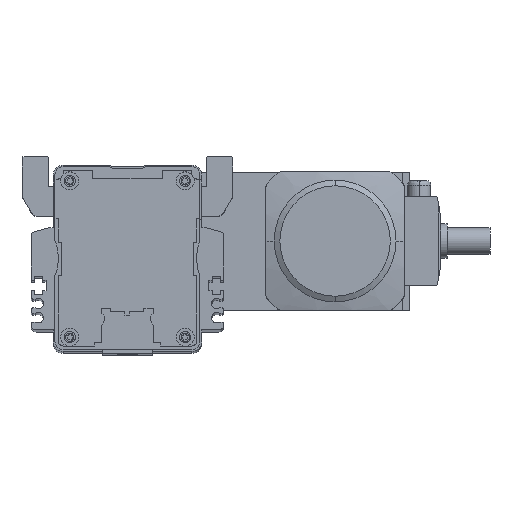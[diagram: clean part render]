
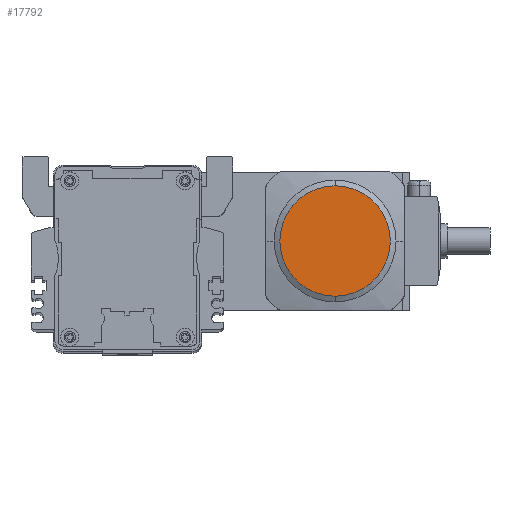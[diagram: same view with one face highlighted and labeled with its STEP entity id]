
A CAD part, top view. The second image highlights one B-rep face of the part: STEP entity #17792.
In plain terms, the highlighted planar face has unit normal (0, 0, 1).
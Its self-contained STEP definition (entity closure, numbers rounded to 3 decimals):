
#17463 = EDGE_CURVE ( 'NONE', #17607, #17573, #20339, .T. ) ;
#17573 = VERTEX_POINT ( 'NONE', #20843 ) ;
#17587 = ORIENTED_EDGE ( 'NONE', *, *, #17463, .F. ) ;
#17594 = EDGE_LOOP ( 'NONE', ( #17587, #17825 ) ) ;
#17607 = VERTEX_POINT ( 'NONE', #21076 ) ;
#17748 = EDGE_CURVE ( 'NONE', #17573, #17607, #20325, .T. ) ;
#17792 = ADVANCED_FACE ( 'NONE', ( #23037 ), #23034, .F. ) ;
#17825 = ORIENTED_EDGE ( 'NONE', *, *, #17748, .F. ) ;
#18847 = DIRECTION ( 'NONE',  ( 0., -1., 0. ) ) ;
#20235 = CARTESIAN_POINT ( 'NONE',  ( 250.19, -4.031, 67.5 ) ) ;
#20286 = DIRECTION ( 'NONE',  ( 0., 0., -1. ) ) ;
#20287 = AXIS2_PLACEMENT_3D ( 'NONE', #20293, #20286, #18847 ) ;
#20293 = CARTESIAN_POINT ( 'NONE',  ( 250.19, -4.031, 67.5 ) ) ;
#20308 = DIRECTION ( 'NONE',  ( 0., -1., 0. ) ) ;
#20309 = DIRECTION ( 'NONE',  ( 0., 0., -1. ) ) ;
#20325 = CIRCLE ( 'NONE', #20287, 16.75 ) ;
#20334 = AXIS2_PLACEMENT_3D ( 'NONE', #20235, #20309, #20308 ) ;
#20339 = CIRCLE ( 'NONE', #20334, 16.75 ) ;
#20843 = CARTESIAN_POINT ( 'NONE',  ( 250.19, 12.719, 67.5 ) ) ;
#21076 = CARTESIAN_POINT ( 'NONE',  ( 250.19, -20.781, 67.5 ) ) ;
#23018 = AXIS2_PLACEMENT_3D ( 'NONE', #23061, #23060, #23059 ) ;
#23034 = PLANE ( 'NONE',  #23018 ) ;
#23037 = FACE_OUTER_BOUND ( 'NONE', #17594, .T. ) ;
#23059 = DIRECTION ( 'NONE',  ( 0., -1., 0. ) ) ;
#23060 = DIRECTION ( 'NONE',  ( 0., 0., -1. ) ) ;
#23061 = CARTESIAN_POINT ( 'NONE',  ( 250.19, -4.031, 67.5 ) ) ;
